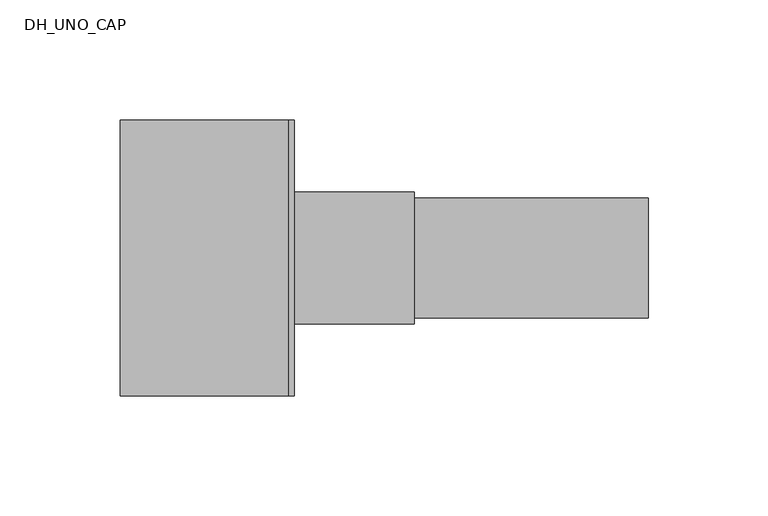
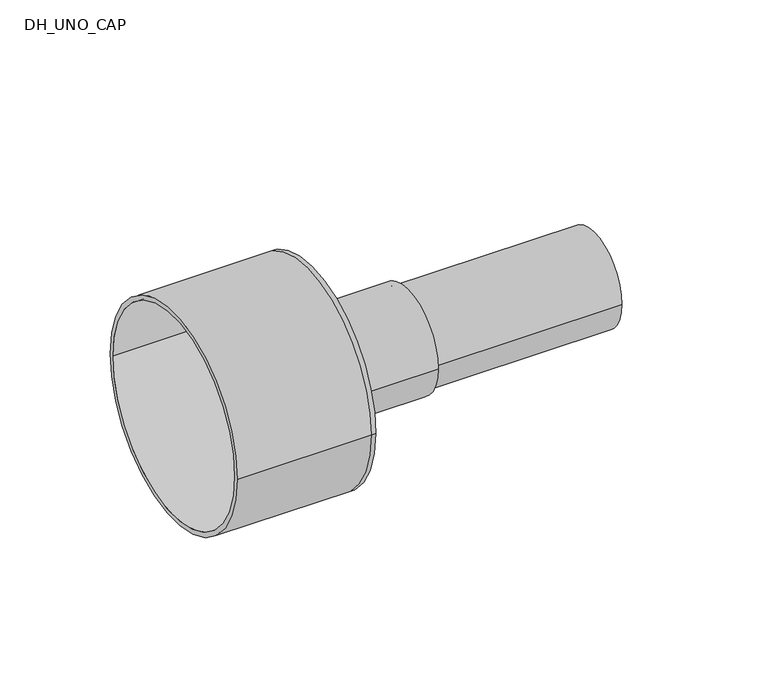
"""IFC4 building model written with IfcOpenShell, lengths in millimetres: pipe fitting geometry, DH_UNO_CAP : INSULPEX UNO 7.4 DW - Rubber Cap."""

from ifc_helpers import new_model, si_unit, point, frame, origin, origin_2d, place, context, project, spatial, polyline, circle_curve, trimmed, segment, composite_curve, outline, extrude, source, transform, mapped, element, save
from ifc_brep_helpers import plane_surface, cylinder_surface, revolved_surface, advanced_brep


def dh_uno_cap_4b470b20(model_context):
    return source(origin(), model_context, "Body", "SolidModel", [
        extrude(outline(composite_curve([segment(trimmed(circle_curve(origin_2d(), 25.0), [point((-25.0, 0.0))], [point((25.0, 0.0))], False, "CARTESIAN"), True, "CONTINUOUS"), segment(trimmed(circle_curve(origin_2d(), 25.0), [point((25.0, 0.0))], [point((-25.0, 0.0))], False, "CARTESIAN"), True, "CONTINUOUS")], self_intersect=False), holes=[composite_curve([segment(trimmed(circle_curve(origin_2d(), 18.1), [point((-18.1, 0.0))], [point((18.1, 0.0))], True, "CARTESIAN"), True, "CONTINUOUS"), segment(trimmed(circle_curve(origin_2d(), 18.1), [point((18.1, 0.0))], [point((-18.1, 0.0))], True, "CARTESIAN"), True, "CONTINUOUS")], self_intersect=False)]), frame((0.0, 0.0, 0.0), z_axis=(1.0, 0.0, 0.0), x_axis=(0.0, 1.0, 0.0)), (0.0, 0.0, 1.0), 150.0),
        advanced_brep(
        [(-70.0, -57.5, 0.0), (-70.0, 57.5, 0.0), (-70.0, -55.0, 0.0), (-70.0, 55.0, 0.0), (0.0, -55.0, 0.0), (0.0, 55.0, 0.0), (0.0, -57.5, 0.0), (0.0, 57.5, 0.0), (0.0, 25.0, 0.0), (0.0, -25.0, 0.0), (2.5, -57.5, 0.0), (2.5, 57.5, 0.0), (2.5, -25.0, 0.0), (2.5, 25.0, 0.0)],
        [
            (0, 1, circle_curve(frame((-70.0, 0.0, 0.0), z_axis=(-1.0, 0.0, 0.0), x_axis=(0.0, 1.0, 0.0)), 57.5)),
            (1, 0, circle_curve(frame((-70.0, 0.0, 0.0), z_axis=(-1.0, 0.0, 0.0), x_axis=(0.0, 1.0, 0.0)), 57.5)),
            (2, 3, circle_curve(frame((-70.0, 0.0, 0.0), z_axis=(1.0, 0.0, 0.0), x_axis=(0.0, 1.0, 0.0)), 55.0)),
            (3, 2, circle_curve(frame((-70.0, 0.0, 0.0), z_axis=(1.0, 0.0, 0.0), x_axis=(0.0, 1.0, 0.0)), 55.0)),
            (2, 4),
            (4, 5, circle_curve(frame((0.0, 0.0, 0.0), z_axis=(1.0, 0.0, 0.0), x_axis=(0.0, 1.0, 0.0)), 55.0)),
            (5, 3),
            (5, 4, circle_curve(frame((0.0, 0.0, 0.0), z_axis=(1.0, 0.0, 0.0), x_axis=(0.0, 1.0, 0.0)), 55.0)),
            (0, 6),
            (6, 7, circle_curve(frame((0.0, 0.0, 0.0), z_axis=(-1.0, 0.0, 0.0), x_axis=(0.0, 1.0, 0.0)), 57.5)),
            (7, 1),
            (7, 6, circle_curve(frame((0.0, 0.0, 0.0), z_axis=(-1.0, 0.0, 0.0), x_axis=(0.0, 1.0, 0.0)), 57.5)),
            (8, 9, circle_curve(frame((0.0, 0.0, 0.0), z_axis=(1.0, 0.0, 0.0), x_axis=(0.0, 1.0, 0.0)), 25.0)),
            (9, 8, circle_curve(frame((0.0, 0.0, 0.0), z_axis=(1.0, 0.0, 0.0), x_axis=(0.0, 1.0, 0.0)), 25.0)),
            (10, 11, circle_curve(frame((2.5, 0.0, 0.0), z_axis=(1.0, 0.0, 0.0), x_axis=(0.0, 1.0, 0.0)), 57.5)),
            (11, 10, circle_curve(frame((2.5, 0.0, 0.0), z_axis=(1.0, 0.0, 0.0), x_axis=(0.0, 1.0, 0.0)), 57.5)),
            (12, 13, circle_curve(frame((2.5, 0.0, 0.0), z_axis=(-1.0, 0.0, 0.0), x_axis=(0.0, 1.0, 0.0)), 25.0)),
            (13, 12, circle_curve(frame((2.5, 0.0, 0.0), z_axis=(-1.0, 0.0, 0.0), x_axis=(0.0, 1.0, 0.0)), 25.0)),
            (11, 7),
            (6, 10),
            (8, 13),
            (12, 9),
        ],
        [
            plane_surface(frame((-70.0, 0.0, 0.0), z_axis=(-1.0, 0.0, 0.0), x_axis=(0.0, 0.0, 1.0))),
            revolved_surface(polyline([(0.0, 55.0, 0.0), (-70.0, 55.0, 0.0)]), (-70.0, 0.0, 0.0), (1.0, 0.0, 0.0)),
            cylinder_surface(frame((-70.0, 0.0, 0.0), z_axis=(-1.0, 0.0, 0.0), x_axis=(0.0, 1.0, 0.0)), 57.5),
            plane_surface(frame((0.0, 0.0, 0.0), z_axis=(-1.0, 0.0, 0.0), x_axis=(0.0, 0.0, 1.0))),
            plane_surface(frame((2.5, 0.0, 0.0), z_axis=(1.0, 0.0, 0.0), x_axis=(0.0, 0.0, 1.0))),
            cylinder_surface(frame((0.0, 0.0, 0.0), z_axis=(-1.0, 0.0, 0.0), x_axis=(0.0, 1.0, 0.0)), 57.5),
            revolved_surface(polyline([(0.0, 25.0, 0.0), (2.5, 25.0, 0.0)]), (0.0, 0.0, 0.0), (-1.0, 0.0, 0.0)),
        ],
        [
            (0, [[1, 2], [3, 4]]),
            (1, [[-3, 5, 6, 7]]),
            (1, [[-4, -7, 8, -5]]),
            (2, [[-1, 9, 10, 11]]),
            (2, [[-2, -11, 12, -9]]),
            (3, [[-6, -8], [13, 14]]),
            (4, [[15, 16], [17, 18]]),
            (5, [[-16, 19, -10, 20]]),
            (5, [[-15, -20, -12, -19]]),
            (6, [[21, -17, 22, -13]]),
            (6, [[-21, -14, -22, -18]]),
        ],
    ),
        extrude(outline(composite_curve([segment(trimmed(circle_curve(origin_2d(), 27.5), [point((-27.5, 0.0))], [point((27.5, 0.0))], False, "CARTESIAN"), True, "CONTINUOUS"), segment(trimmed(circle_curve(origin_2d(), 27.5), [point((27.5, 0.0))], [point((-27.5, 0.0))], False, "CARTESIAN"), True, "CONTINUOUS")], self_intersect=False), holes=[composite_curve([segment(trimmed(circle_curve(origin_2d(), 25.0), [point((-25.0, 0.0))], [point((25.0, 0.0))], True, "CARTESIAN"), True, "CONTINUOUS"), segment(trimmed(circle_curve(origin_2d(), 25.0), [point((25.0, 0.0))], [point((-25.0, 0.0))], True, "CARTESIAN"), True, "CONTINUOUS")], self_intersect=False)]), frame((2.5, 0.0, 0.0), z_axis=(1.0, 0.0, 0.0), x_axis=(0.0, 1.0, 0.0)), (0.0, 0.0, 1.0), 50.0),
    ])


if __name__ == "__main__":
    model = new_model("IFC4")
    model_context = context("Model", 3, world=origin())
    ifc_project = project(units=[si_unit("LENGTHUNIT", "METRE", prefix="MILLI")], contexts=[model_context])
    site = spatial("IfcSite", under=ifc_project)
    building = spatial("IfcBuilding", under=site)
    placement = place(None, origin())
    dh_uno_cap_shape = dh_uno_cap_4b470b20(model_context)
    element("IfcPipeFitting", 1, ObjectType="DH_UNO_CAP : INSULPEX UNO 7.4 DW - Rubber Cap", at=placement, inside=building, context=model_context, shape_type="MappedRepresentation", body=[
        mapped(dh_uno_cap_shape, transform((0.0, 0.0, 0.0), x_axis=(1.0, 0.0, 0.0), y_axis=(0.0, 1.0, 0.0), z_axis=(0.0, 0.0, 1.0))),
    ])
    save(model, "model.ifc")
